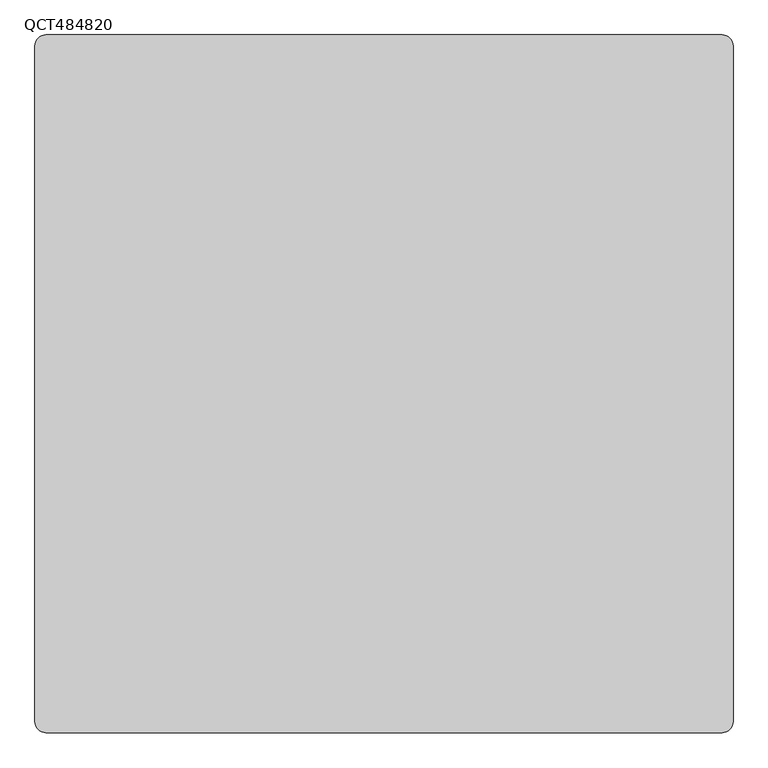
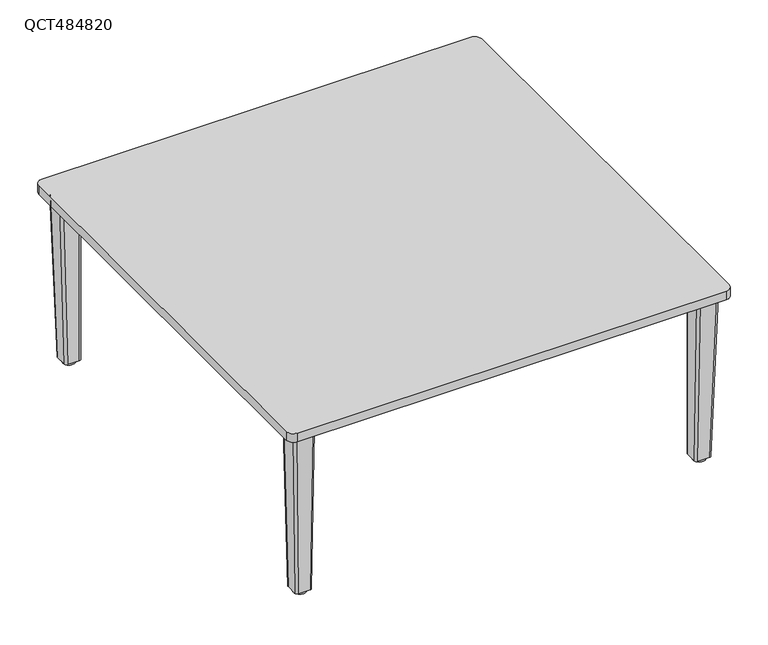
"""IFC4 building model written with IfcOpenShell, lengths in millimetres: furniture geometry, Leland-Quince-Table_Square : QCT484820."""

from ifc_helpers import new_model, si_unit, point, frame, frame_2d, origin, origin_with_axes, place, context, project, spatial, polyline, circle_curve, trimmed, segment, composite_curve, outline, extrude, source, transform, mapped, element, save
from ifc_brep_helpers import plane_surface, cylinder_surface, extruded_surface, advanced_brep


def qct484820_ed0dcc14(model_context):
    return source(origin(), model_context, "Body", "SolidModel", [
        advanced_brep(
        [(578.6299122, -527.8482078, 477.8487443), (534.1799122, -527.8482078, 477.8487443), (527.8299122, -534.1982078, 477.8487443), (527.8299122, -578.6482078, 477.8487443), (534.1799122, -584.9982078, 477.8487443), (578.6299122, -584.9982078, 477.8487443), (584.9799122, -578.6482078, 477.8487443), (584.9799122, -534.1982078, 477.8487443), (566.3392552, -527.8482078, 9.5377), (572.6892552, -534.1982078, 9.5377), (572.6892552, -566.3651364, 9.5377), (566.3392552, -572.7151364, 9.5377), (534.1799122, -572.7151364, 9.5377), (527.8299122, -566.3651364, 9.5377), (527.8299122, -534.1982078, 9.5377), (534.1799122, -527.8482078, 9.5377)],
        [
            (0, 1),
            (1, 2, circle_curve(frame((534.1799122, -534.1982078, 477.8487443), z_axis=(0.0, 0.0, 1.0), x_axis=(-1.0, 0.0, 0.0)), 6.35)),
            (2, 3),
            (3, 4, circle_curve(frame((534.1799122, -578.6482078, 477.8487443), z_axis=(0.0, 0.0, 1.0), x_axis=(-1.0, 0.0, 0.0)), 6.35)),
            (4, 5),
            (5, 6, circle_curve(frame((578.6299122, -578.6482078, 477.8487443), z_axis=(0.0, 0.0, 1.0), x_axis=(-1.0, 0.0, 0.0)), 6.35)),
            (6, 7),
            (7, 0, circle_curve(frame((578.6299122, -534.1982078, 477.8487443), z_axis=(0.0, 0.0, 1.0), x_axis=(-1.0, 0.0, 0.0)), 6.35)),
            (8, 9, circle_curve(frame((566.3392552, -534.1982078, 9.5377), z_axis=(0.0, 0.0, -1.0), x_axis=(-1.0, 0.0, 0.0)), 6.35)),
            (9, 10),
            (10, 11, circle_curve(frame((566.3392552, -566.3651364, 9.5377), z_axis=(0.0, 0.0, -1.0), x_axis=(-1.0, 0.0, 0.0)), 6.35)),
            (11, 12),
            (12, 13, circle_curve(frame((534.1799122, -566.3651364, 9.5377), z_axis=(0.0, 0.0, -1.0), x_axis=(-1.0, 0.0, 0.0)), 6.35)),
            (13, 14),
            (14, 15, circle_curve(frame((534.1799122, -534.1982078, 9.5377), z_axis=(0.0, 0.0, -1.0), x_axis=(-1.0, 0.0, 0.0)), 6.35)),
            (15, 8),
            (8, 0),
            (7, 9),
            (6, 10),
            (5, 11),
            (4, 12),
            (3, 13),
            (2, 14),
            (1, 15),
        ],
        [
            plane_surface(frame((556.4049122, -556.4232078, 477.8487443), z_axis=(0.0, 0.0, 1.0), x_axis=(1.0, 0.0, 0.0))),
            plane_surface(frame((550.2595837, -550.2816721, 9.5377), z_axis=(0.0, 0.0, -1.0), x_axis=(1.0, 0.0, 0.0))),
            extruded_surface(trimmed(circle_curve(frame((566.3392552, -534.1982078, 9.5377), z_axis=(0.0, 0.0, 1.0), x_axis=(-1.0, 0.0, 0.0)), 6.35), [point((572.6892552, -534.1982078, 9.5377))], [point((566.3392552, -527.8482078, 9.5377))], True, "CARTESIAN"), (12.29065700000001, 0.0, 468.31104430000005), 468.47229850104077),
            plane_surface(frame((572.6892552, -550.2816721, 9.5377), z_axis=(0.9996557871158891, 0.0, -0.026235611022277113), x_axis=(0.0, 1.0, 0.0))),
            extruded_surface(trimmed(circle_curve(frame((566.3392552, -566.3651364, 9.5377), z_axis=(0.0, 0.0, 1.0), x_axis=(-1.0, 0.0, 0.0)), 6.35), [point((566.3392552, -572.7151364, 9.5377))], [point((572.6892552, -566.3651364, 9.5377))], True, "CARTESIAN"), (12.29065700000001, -12.28307140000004, 468.31104430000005), 468.63329833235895),
            plane_surface(frame((550.2595837, -572.7151364, 9.5377), z_axis=(0.0, -0.9996562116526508, -0.026219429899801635), x_axis=(1.0, 0.0, 0.0))),
            extruded_surface(trimmed(circle_curve(frame((534.1799122, -566.3651364, 9.5377), z_axis=(0.0, 0.0, 1.0), x_axis=(-1.0, 0.0, 0.0)), 6.35), [point((527.8299122, -566.3651364, 9.5377))], [point((534.1799122, -572.7151364, 9.5377))], True, "CARTESIAN"), (0.0, -12.28307140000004, 468.31104430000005), 468.47209954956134),
            plane_surface(frame((527.8299122, -550.2816721, 9.5377), z_axis=(-1.0, 0.0, 0.0), x_axis=(0.0, -1.0, 0.0))),
            cylinder_surface(frame((534.1799122, -534.1982078, 9.5377), z_axis=(0.0, 0.0, 1.0), x_axis=(-1.0, 0.0, 0.0)), 6.35),
            plane_surface(frame((550.2595837, -527.8482078, 9.5377), z_axis=(0.0, 1.0, 0.0), x_axis=(-1.0, 0.0, 0.0))),
        ],
        [
            (0, [[1, 2, 3, 4, 5, 6, 7, 8]]),
            (1, [[9, 10, 11, 12, 13, 14, 15, 16]]),
            (2, [[-9, 17, -8, 18]]),
            (3, [[-10, -18, -7, 19]]),
            (4, [[-11, -19, -6, 20]]),
            (5, [[-12, -20, -5, 21]]),
            (6, [[-13, -21, -4, 22]]),
            (7, [[-14, -22, -3, 23]]),
            (8, [[-15, -23, -2, 24]]),
            (9, [[-16, -24, -1, -17]]),
        ],
    ),
        advanced_brep(
        [(-578.6299122, -527.8482078, 477.8487443), (-584.9799122, -534.1982078, 477.8487443), (-584.9799122, -578.6482078, 477.8487443), (-578.6299122, -584.9982078, 477.8487443), (-534.1799122, -584.9982078, 477.8487443), (-527.8299122, -578.6482078, 477.8487443), (-527.8299122, -534.1982078, 477.8487443), (-534.1799122, -527.8482078, 477.8487443), (-566.3392552, -527.8482078, 9.5377), (-534.1799122, -527.8482078, 9.5377), (-527.8299122, -534.1982078, 9.5377), (-527.8299122, -566.3651364, 9.5377), (-534.1799122, -572.7151364, 9.5377), (-566.3392552, -572.7151364, 9.5377), (-572.6892552, -566.3651364, 9.5377), (-572.6892552, -534.1982078, 9.5377)],
        [
            (0, 1, circle_curve(frame((-578.6299122, -534.1982078, 477.8487443), z_axis=(0.0, 0.0, 1.0), x_axis=(1.0, 0.0, 0.0)), 6.35)),
            (1, 2),
            (2, 3, circle_curve(frame((-578.6299122, -578.6482078, 477.8487443), z_axis=(0.0, 0.0, 1.0), x_axis=(1.0, 0.0, 0.0)), 6.35)),
            (3, 4),
            (4, 5, circle_curve(frame((-534.1799122, -578.6482078, 477.8487443), z_axis=(0.0, 0.0, 1.0), x_axis=(1.0, 0.0, 0.0)), 6.35)),
            (5, 6),
            (6, 7, circle_curve(frame((-534.1799122, -534.1982078, 477.8487443), z_axis=(0.0, 0.0, 1.0), x_axis=(0.0, 1.0, 0.0)), 6.35)),
            (7, 0),
            (8, 9),
            (9, 10, circle_curve(frame((-534.1799122, -534.1982078, 9.5377), z_axis=(0.0, 0.0, -1.0), x_axis=(0.0, 1.0, 0.0)), 6.35)),
            (10, 11),
            (11, 12, circle_curve(frame((-534.1799122, -566.3651364, 9.5377), z_axis=(0.0, 0.0, -1.0), x_axis=(1.0, 0.0, 0.0)), 6.35)),
            (12, 13),
            (13, 14, circle_curve(frame((-566.3392552, -566.3651364, 9.5377), z_axis=(0.0, 0.0, -1.0), x_axis=(1.0, 0.0, 0.0)), 6.35)),
            (14, 15),
            (15, 8, circle_curve(frame((-566.3392552, -534.1982078, 9.5377), z_axis=(0.0, 0.0, -1.0), x_axis=(1.0, 0.0, 0.0)), 6.35)),
            (15, 1),
            (0, 8),
            (14, 2),
            (13, 3),
            (12, 4),
            (11, 5),
            (10, 6),
            (9, 7),
        ],
        [
            plane_surface(frame((-556.4049122, -556.4232078, 477.8487443), z_axis=(0.0, 0.0, 1.0), x_axis=(1.0, 0.0, 0.0))),
            plane_surface(frame((-550.2595837, -550.2816721, 9.5377), z_axis=(0.0, 0.0, -1.0), x_axis=(1.0, 0.0, 0.0))),
            extruded_surface(trimmed(circle_curve(frame((-566.3392552, -534.1982078, 9.5377), z_axis=(0.0, 0.0, 1.0), x_axis=(1.0, 0.0, 0.0)), 6.35), [point((-566.3392552, -527.8482078, 9.5377))], [point((-572.6892552, -534.1982078, 9.5377))], True, "CARTESIAN"), (-12.29065700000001, 0.0, 468.31104430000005), 468.47229850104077),
            plane_surface(frame((-572.6892552, -550.2816721, 9.5377), z_axis=(-0.9996557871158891, 0.0, -0.026235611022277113), x_axis=(0.0, -1.0, 0.0))),
            extruded_surface(trimmed(circle_curve(frame((-566.3392552, -566.3651364, 9.5377), z_axis=(0.0, 0.0, 1.0), x_axis=(1.0, 0.0, 0.0)), 6.35), [point((-572.6892552, -566.3651364, 9.5377))], [point((-566.3392552, -572.7151364, 9.5377))], True, "CARTESIAN"), (-12.29065700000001, -12.28307140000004, 468.31104430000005), 468.63329833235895),
            plane_surface(frame((-550.2595837, -572.7151364, 9.5377), z_axis=(0.0, -0.9996562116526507, -0.026219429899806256), x_axis=(1.0, 0.0, 0.0))),
            extruded_surface(trimmed(circle_curve(frame((-534.1799122, -566.3651364, 9.5377), z_axis=(0.0, 0.0, 1.0), x_axis=(1.0, 0.0, 0.0)), 6.35), [point((-534.1799122, -572.7151364, 9.5377))], [point((-527.8299122, -566.3651364, 9.5377))], True, "CARTESIAN"), (0.0, -12.28307140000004, 468.31104430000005), 468.47209954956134),
            plane_surface(frame((-527.8299122, -550.2816721, 9.5377), z_axis=(1.0, 0.0, 0.0), x_axis=(0.0, 1.0, 0.0))),
            cylinder_surface(frame((-534.1799122, -534.1982078, 9.5377), z_axis=(0.0, 0.0, 1.0), x_axis=(0.0, 1.0, 0.0)), 6.35),
            plane_surface(frame((-550.2595837, -527.8482078, 9.5377), z_axis=(0.0, 1.0, 0.0), x_axis=(-1.0, 0.0, 0.0))),
        ],
        [
            (0, [[1, 2, 3, 4, 5, 6, 7, 8]]),
            (1, [[9, 10, 11, 12, 13, 14, 15, 16]]),
            (2, [[-16, 17, -1, 18]]),
            (3, [[-15, 19, -2, -17]]),
            (4, [[-14, 20, -3, -19]]),
            (5, [[-13, 21, -4, -20]]),
            (6, [[-12, 22, -5, -21]]),
            (7, [[-11, 23, -6, -22]]),
            (8, [[-10, 24, -7, -23]]),
            (9, [[-9, -18, -8, -24]]),
        ],
    ),
        advanced_brep(
        [(578.6299122, 527.8482078, 477.8487443), (584.9799122, 534.1982078, 477.8487443), (584.9799122, 578.6482078, 477.8487443), (578.6299122, 584.9982078, 477.8487443), (534.1799122, 584.9982078, 477.8487443), (527.8299122, 578.6482078, 477.8487443), (527.8299122, 534.1982078, 477.8487443), (534.1799122, 527.8482078, 477.8487443), (566.3392552, 527.8482078, 9.5377), (534.1799122, 527.8482078, 9.5377), (527.8299122, 534.1982078, 9.5377), (527.8299122, 566.3651364, 9.5377), (534.1799122, 572.7151364, 9.5377), (566.3392552, 572.7151364, 9.5377), (572.6892552, 566.3651364, 9.5377), (572.6892552, 534.1982078, 9.5377)],
        [
            (0, 1, circle_curve(frame((578.6299122, 534.1982078, 477.8487443), z_axis=(0.0, 0.0, 1.0), x_axis=(-1.0, 0.0, 0.0)), 6.35)),
            (1, 2),
            (2, 3, circle_curve(frame((578.6299122, 578.6482078, 477.8487443), z_axis=(0.0, 0.0, 1.0), x_axis=(-1.0, 0.0, 0.0)), 6.35)),
            (3, 4),
            (4, 5, circle_curve(frame((534.1799122, 578.6482078, 477.8487443), z_axis=(0.0, 0.0, 1.0), x_axis=(-1.0, 0.0, 0.0)), 6.35)),
            (5, 6),
            (6, 7, circle_curve(frame((534.1799122, 534.1982078, 477.8487443), z_axis=(0.0, 0.0, 1.0), x_axis=(0.0, -1.0, 0.0)), 6.35)),
            (7, 0),
            (8, 9),
            (9, 10, circle_curve(frame((534.1799122, 534.1982078, 9.5377), z_axis=(0.0, 0.0, -1.0), x_axis=(0.0, -1.0, 0.0)), 6.35)),
            (10, 11),
            (11, 12, circle_curve(frame((534.1799122, 566.3651364, 9.5377), z_axis=(0.0, 0.0, -1.0), x_axis=(-1.0, 0.0, 0.0)), 6.35)),
            (12, 13),
            (13, 14, circle_curve(frame((566.3392552, 566.3651364, 9.5377), z_axis=(0.0, 0.0, -1.0), x_axis=(-1.0, 0.0, 0.0)), 6.35)),
            (14, 15),
            (15, 8, circle_curve(frame((566.3392552, 534.1982078, 9.5377), z_axis=(0.0, 0.0, -1.0), x_axis=(-1.0, 0.0, 0.0)), 6.35)),
            (15, 1),
            (0, 8),
            (14, 2),
            (13, 3),
            (12, 4),
            (11, 5),
            (10, 6),
            (9, 7),
        ],
        [
            plane_surface(frame((556.4049122, 556.4232078, 477.8487443), z_axis=(0.0, 0.0, 1.0), x_axis=(-1.0, 0.0, 0.0))),
            plane_surface(frame((550.2595837, 550.2816721, 9.5377), z_axis=(0.0, 0.0, -1.0), x_axis=(-1.0, 0.0, 0.0))),
            extruded_surface(trimmed(circle_curve(frame((566.3392552, 534.1982078, 9.5377), z_axis=(0.0, 0.0, 1.0), x_axis=(-1.0, 0.0, 0.0)), 6.35), [point((566.3392552, 527.8482078, 9.5377))], [point((572.6892552, 534.1982078, 9.5377))], True, "CARTESIAN"), (12.29065700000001, 0.0, 468.31104430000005), 468.47229850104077),
            plane_surface(frame((572.6892552, 550.2816721, 9.5377), z_axis=(0.9996557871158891, 0.0, -0.02623561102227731), x_axis=(0.0, 1.0, 0.0))),
            extruded_surface(trimmed(circle_curve(frame((566.3392552, 566.3651364, 9.5377), z_axis=(0.0, 0.0, 1.0), x_axis=(-1.0, 0.0, 0.0)), 6.35), [point((572.6892552, 566.3651364, 9.5377))], [point((566.3392552, 572.7151364, 9.5377))], True, "CARTESIAN"), (12.29065700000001, 12.28307140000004, 468.31104430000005), 468.63329833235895),
            plane_surface(frame((550.2595837, 572.7151364, 9.5377), z_axis=(0.0, 0.9996562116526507, -0.026219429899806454), x_axis=(-1.0, 0.0, 0.0))),
            extruded_surface(trimmed(circle_curve(frame((534.1799122, 566.3651364, 9.5377), z_axis=(0.0, 0.0, 1.0), x_axis=(-1.0, 0.0, 0.0)), 6.35), [point((534.1799122, 572.7151364, 9.5377))], [point((527.8299122, 566.3651364, 9.5377))], True, "CARTESIAN"), (0.0, 12.28307140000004, 468.31104430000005), 468.47209954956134),
            plane_surface(frame((527.8299122, 550.2816721, 9.5377), z_axis=(-1.0, 0.0, 0.0), x_axis=(0.0, -1.0, 0.0))),
            cylinder_surface(frame((534.1799122, 534.1982078, 9.5377), z_axis=(0.0, 0.0, 1.0), x_axis=(0.0, -1.0, 0.0)), 6.35),
            plane_surface(frame((550.2595837, 527.8482078, 9.5377), z_axis=(0.0, -1.0, 0.0), x_axis=(1.0, 0.0, 0.0))),
        ],
        [
            (0, [[1, 2, 3, 4, 5, 6, 7, 8]]),
            (1, [[9, 10, 11, 12, 13, 14, 15, 16]]),
            (2, [[-16, 17, -1, 18]]),
            (3, [[-15, 19, -2, -17]]),
            (4, [[-14, 20, -3, -19]]),
            (5, [[-13, 21, -4, -20]]),
            (6, [[-12, 22, -5, -21]]),
            (7, [[-11, 23, -6, -22]]),
            (8, [[-10, 24, -7, -23]]),
            (9, [[-9, -18, -8, -24]]),
        ],
    ),
        extrude(outline(composite_curve([segment(trimmed(circle_curve(frame_2d((-550.2595837, 550.2816721)), 16.66875), [point((-566.9283337, 550.2816721))], [point((-533.5908337, 550.2816721))], False, "CARTESIAN"), True, "CONTINUOUS"), segment(trimmed(circle_curve(frame_2d((-550.2595837, 550.2816721)), 16.66875), [point((-533.5908337, 550.2816721))], [point((-566.9283337, 550.2816721))], False, "CARTESIAN"), True, "CONTINUOUS")], self_intersect=False)), origin_with_axes(), (0.0, 0.0, 1.0), 9.5377),
        extrude(outline(composite_curve([segment(trimmed(circle_curve(frame_2d((550.2595837, 550.2816721)), 16.66875), [point((533.5908337, 550.2816721))], [point((566.9283337, 550.2816721))], False, "CARTESIAN"), True, "CONTINUOUS"), segment(trimmed(circle_curve(frame_2d((550.2595837, 550.2816721)), 16.66875), [point((566.9283337, 550.2816721))], [point((533.5908337, 550.2816721))], False, "CARTESIAN"), True, "CONTINUOUS")], self_intersect=False)), origin_with_axes(), (0.0, 0.0, 1.0), 9.5377),
        extrude(outline(composite_curve([segment(trimmed(circle_curve(frame_2d((-550.2595837, -550.2816721)), 16.66875), [point((-566.9283337, -550.2816721))], [point((-533.5908337, -550.2816721))], False, "CARTESIAN"), True, "CONTINUOUS"), segment(trimmed(circle_curve(frame_2d((-550.2595837, -550.2816721)), 16.66875), [point((-533.5908337, -550.2816721))], [point((-566.9283337, -550.2816721))], False, "CARTESIAN"), True, "CONTINUOUS")], self_intersect=False)), origin_with_axes(), (0.0, 0.0, 1.0), 9.5377),
        extrude(outline(composite_curve([segment(trimmed(circle_curve(frame_2d((550.2595837, -550.2816721)), 16.66875), [point((533.5908337, -550.2816721))], [point((566.9283337, -550.2816721))], False, "CARTESIAN"), True, "CONTINUOUS"), segment(trimmed(circle_curve(frame_2d((550.2595837, -550.2816721)), 16.66875), [point((566.9283337, -550.2816721))], [point((533.5908337, -550.2816721))], False, "CARTESIAN"), True, "CONTINUOUS")], self_intersect=False)), origin_with_axes(), (0.0, 0.0, 1.0), 9.5377),
        extrude(outline(polyline([(-480.21875, 581.81875), (-480.21875, 480.21875), (-581.81875, 480.21875), (-581.81875, 581.81875), (-480.21875, 581.81875)])), frame((0.0, 0.0, 477.8487443), z_axis=(0.0, 0.0, 1.0), x_axis=(1.0, 0.0, 0.0)), (0.0, 0.0, 1.0), 4.7625),
        extrude(outline(polyline([(480.21875, 581.81875), (581.81875, 581.81875), (581.81875, 480.21875), (480.21875, 480.21875), (480.21875, 581.81875)])), frame((0.0, 0.0, 477.8487443), z_axis=(0.0, 0.0, 1.0), x_axis=(1.0, 0.0, 0.0)), (0.0, 0.0, 1.0), 4.7625),
        extrude(outline(polyline([(-480.21875, -581.81875), (-581.81875, -581.81875), (-581.81875, -480.21875), (-480.21875, -480.21875), (-480.21875, -581.81875)])), frame((0.0, 0.0, 477.8487443), z_axis=(0.0, 0.0, 1.0), x_axis=(1.0, 0.0, 0.0)), (0.0, 0.0, 1.0), 4.7625),
        extrude(outline(polyline([(480.21875, -581.81875), (480.21875, -480.21875), (581.81875, -480.21875), (581.81875, -581.81875), (480.21875, -581.81875)])), frame((0.0, 0.0, 477.8487443), z_axis=(0.0, 0.0, 1.0), x_axis=(1.0, 0.0, 0.0)), (0.0, 0.0, 1.0), 4.7625),
        advanced_brep(
        [(-578.6299122, 527.8482078, 477.8487443), (-534.1799122, 527.8482078, 477.8487443), (-527.8299122, 534.1982078, 477.8487443), (-527.8299122, 578.6482078, 477.8487443), (-534.1799122, 584.9982078, 477.8487443), (-578.6299122, 584.9982078, 477.8487443), (-584.9799122, 578.6482078, 477.8487443), (-584.9799122, 534.1982078, 477.8487443), (-566.3392552, 527.8482078, 9.5377), (-572.6892552, 534.1982078, 9.5377), (-572.6892552, 566.3651364, 9.5377), (-566.3392552, 572.7151364, 9.5377), (-534.1799122, 572.7151364, 9.5377), (-527.8299122, 566.3651364, 9.5377), (-527.8299122, 534.1982078, 9.5377), (-534.1799122, 527.8482078, 9.5377)],
        [
            (0, 1),
            (1, 2, circle_curve(frame((-534.1799122, 534.1982078, 477.8487443), z_axis=(0.0, 0.0, 1.0), x_axis=(1.0, 0.0, 0.0)), 6.35)),
            (2, 3),
            (3, 4, circle_curve(frame((-534.1799122, 578.6482078, 477.8487443), z_axis=(0.0, 0.0, 1.0), x_axis=(1.0, 0.0, 0.0)), 6.35)),
            (4, 5),
            (5, 6, circle_curve(frame((-578.6299122, 578.6482078, 477.8487443), z_axis=(0.0, 0.0, 1.0), x_axis=(1.0, 0.0, 0.0)), 6.35)),
            (6, 7),
            (7, 0, circle_curve(frame((-578.6299122, 534.1982078, 477.8487443), z_axis=(0.0, 0.0, 1.0), x_axis=(1.0, 0.0, 0.0)), 6.35)),
            (8, 9, circle_curve(frame((-566.3392552, 534.1982078, 9.5377), z_axis=(0.0, 0.0, -1.0), x_axis=(1.0, 0.0, 0.0)), 6.35)),
            (9, 10),
            (10, 11, circle_curve(frame((-566.3392552, 566.3651364, 9.5377), z_axis=(0.0, 0.0, -1.0), x_axis=(1.0, 0.0, 0.0)), 6.35)),
            (11, 12),
            (12, 13, circle_curve(frame((-534.1799122, 566.3651364, 9.5377), z_axis=(0.0, 0.0, -1.0), x_axis=(1.0, 0.0, 0.0)), 6.35)),
            (13, 14),
            (14, 15, circle_curve(frame((-534.1799122, 534.1982078, 9.5377), z_axis=(0.0, 0.0, -1.0), x_axis=(1.0, 0.0, 0.0)), 6.35)),
            (15, 8),
            (8, 0),
            (7, 9),
            (6, 10),
            (5, 11),
            (4, 12),
            (3, 13),
            (2, 14),
            (1, 15),
        ],
        [
            plane_surface(frame((-556.4049122, 556.4232078, 477.8487443), z_axis=(0.0, 0.0, 1.0), x_axis=(-1.0, 0.0, 0.0))),
            plane_surface(frame((-550.2595837, 550.2816721, 9.5377), z_axis=(0.0, 0.0, -1.0), x_axis=(-1.0, 0.0, 0.0))),
            extruded_surface(trimmed(circle_curve(frame((-566.3392552, 534.1982078, 9.5377), z_axis=(0.0, 0.0, 1.0), x_axis=(1.0, 0.0, 0.0)), 6.35), [point((-572.6892552, 534.1982078, 9.5377))], [point((-566.3392552, 527.8482078, 9.5377))], True, "CARTESIAN"), (-12.29065700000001, 0.0, 468.31104430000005), 468.47229850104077),
            plane_surface(frame((-572.6892552, 550.2816721, 9.5377), z_axis=(-0.9996557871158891, 0.0, -0.02623561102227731), x_axis=(0.0, -1.0, 0.0))),
            extruded_surface(trimmed(circle_curve(frame((-566.3392552, 566.3651364, 9.5377), z_axis=(0.0, 0.0, 1.0), x_axis=(1.0, 0.0, 0.0)), 6.35), [point((-566.3392552, 572.7151364, 9.5377))], [point((-572.6892552, 566.3651364, 9.5377))], True, "CARTESIAN"), (-12.29065700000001, 12.28307140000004, 468.31104430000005), 468.63329833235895),
            plane_surface(frame((-550.2595837, 572.7151364, 9.5377), z_axis=(0.0, 0.9996562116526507, -0.026219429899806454), x_axis=(-1.0, 0.0, 0.0))),
            extruded_surface(trimmed(circle_curve(frame((-534.1799122, 566.3651364, 9.5377), z_axis=(0.0, 0.0, 1.0), x_axis=(1.0, 0.0, 0.0)), 6.35), [point((-527.8299122, 566.3651364, 9.5377))], [point((-534.1799122, 572.7151364, 9.5377))], True, "CARTESIAN"), (0.0, 12.28307140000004, 468.31104430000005), 468.47209954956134),
            plane_surface(frame((-527.8299122, 550.2816721, 9.5377), z_axis=(1.0, 0.0, 0.0), x_axis=(0.0, 1.0, 0.0))),
            cylinder_surface(frame((-534.1799122, 534.1982078, 9.5377), z_axis=(0.0, 0.0, 1.0), x_axis=(1.0, 0.0, 0.0)), 6.35),
            plane_surface(frame((-550.2595837, 527.8482078, 9.5377), z_axis=(0.0, -1.0, 0.0), x_axis=(1.0, 0.0, 0.0))),
        ],
        [
            (0, [[1, 2, 3, 4, 5, 6, 7, 8]]),
            (1, [[9, 10, 11, 12, 13, 14, 15, 16]]),
            (2, [[-9, 17, -8, 18]]),
            (3, [[-10, -18, -7, 19]]),
            (4, [[-11, -19, -6, 20]]),
            (5, [[-12, -20, -5, 21]]),
            (6, [[-13, -21, -4, 22]]),
            (7, [[-14, -22, -3, 23]]),
            (8, [[-15, -23, -2, 24]]),
            (9, [[-16, -24, -1, -17]]),
        ],
    ),
        extrude(outline(composite_curve([segment(trimmed(circle_curve(frame_2d((590.55, 590.55)), 19.05), [point((590.55, 609.6))], [point((609.6, 590.55))], False, "CARTESIAN"), True, "CONTINUOUS"), segment(polyline([(609.6, 590.55), (609.6, -590.55)]), True, "CONTINUOUS"), segment(trimmed(circle_curve(frame_2d((590.55, -590.55)), 19.05), [point((609.6, -590.55))], [point((590.55, -609.6))], False, "CARTESIAN"), True, "CONTINUOUS"), segment(polyline([(590.55, -609.6), (-590.55, -609.6)]), True, "CONTINUOUS"), segment(trimmed(circle_curve(frame_2d((-590.55, -590.55)), 19.05), [point((-590.55, -609.6))], [point((-609.6, -590.55))], False, "CARTESIAN"), True, "CONTINUOUS"), segment(polyline([(-609.6, -590.55), (-609.6, 590.55)]), True, "CONTINUOUS"), segment(trimmed(circle_curve(frame_2d((-590.55, 590.55)), 19.05), [point((-609.6, 590.55))], [point((-590.55, 609.6))], False, "CARTESIAN"), True, "CONTINUOUS"), segment(polyline([(-590.55, 609.6), (590.55, 609.6)]), True, "CONTINUOUS")], self_intersect=False)), frame((0.0, 0.0, 482.6112443), z_axis=(0.0, 0.0, 1.0), x_axis=(1.0, 0.0, 0.0)), (0.0, 0.0, 1.0), 25.3887557),
    ])


if __name__ == "__main__":
    model = new_model("IFC4")
    model_context = context("Model", 3, world=origin())
    ifc_project = project(units=[si_unit("LENGTHUNIT", "METRE", prefix="MILLI")], contexts=[model_context])
    site = spatial("IfcSite", under=ifc_project)
    building = spatial("IfcBuilding", under=site)
    placement = place(None, origin())
    qct484820_shape = qct484820_ed0dcc14(model_context)
    element("IfcFurniture", 1, ObjectType="Leland-Quince-Table_Square : QCT484820", at=placement, inside=building, context=model_context, shape_type="MappedRepresentation", body=[
        mapped(qct484820_shape, transform((0.0, 0.0, 0.0), x_axis=(1.0, 0.0, 0.0), y_axis=(0.0, 1.0, 0.0), z_axis=(0.0, 0.0, 1.0))),
    ])
    save(model, "model.ifc")
